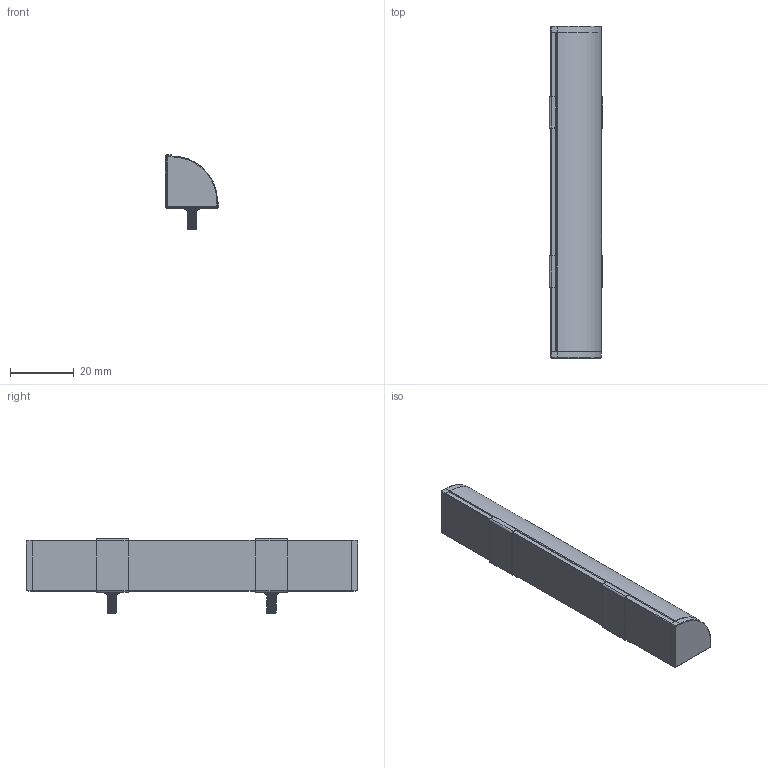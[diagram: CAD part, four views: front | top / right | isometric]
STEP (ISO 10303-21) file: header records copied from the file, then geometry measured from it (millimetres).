
FILE_DESCRIPTION(/* description */ (''),/* implementation_level */ '2;1');
FILE_NAME(/* name */ 'c:\worker\convert-fusion-r02\tmp\job-1\246\output\files\120f8757-c871-4c11-b254-5bfd581c214b\5df16797-481a-4206-97bf-67f0a168f061.stp',/* time_stamp */ '2022-03-30T12:51:39+00:00',/* author */ (''),/* organization */ (''),/* preprocessor_version */ 'ST-DEVELOPER v18.1',/* originating_system */ 'Autodesk Translation Framework v10.14.0.1471',/* authorisation */ '');
FILE_SCHEMA (('AUTOMOTIVE_DESIGN { 1 0 10303 214 3 1 1 }'));
Length unit declared in the file: millimetre
Products named in the file (9): CHAN-1616; LED Strip Light; M3x6mm; Aluminium Profile; Light Diffuser / Lens; Mounting Bracket; Mounting Bracket (1); End Cap; End Cap w/ Cable Out
Assembly tree (10 placements, depth 2):
  CHAN-1616
    LED Strip Light  x2
    M3x6mm  x2
    Aluminium Profile
    Light Diffuser / Lens
    Mounting Bracket
    Mounting Bracket (1)
    End Cap
    End Cap w/ Cable Out
Bounding box: 16.8 x 104.11 x 23.3 mm (x, y, z)
Volume: 9776.1 mm3; surface area: 20251.5 mm2
Topology: 82 solids, 82 shells, 1076 faces, 2466 edges, 1556 vertices
Faces by surface type: plane 490, cylinder 362, sphere 74, bspline 66, torus 66, cone 18
Full cylindrical faces by diameter (mm): 2.356 x8, 2.927 x14, 3 x2
Entity records: 23176 total; most frequent: CARTESIAN_POINT 6123, DIRECTION 3631, ORIENTED_EDGE 3374, EDGE_CURVE 1687, AXIS2_PLACEMENT_3D 1349, VERTEX_POINT 1060, LINE 933, VECTOR 933
